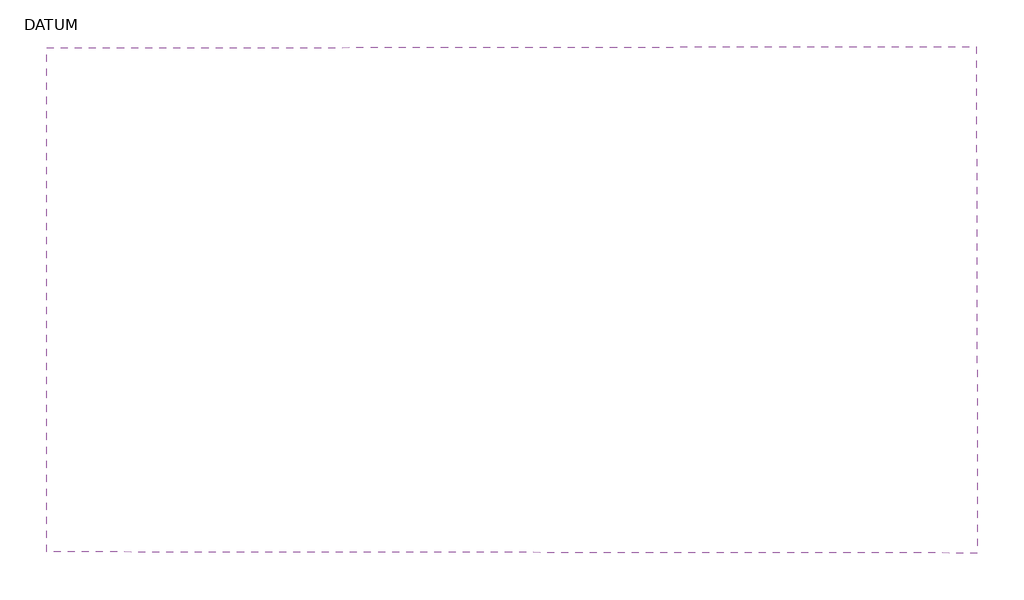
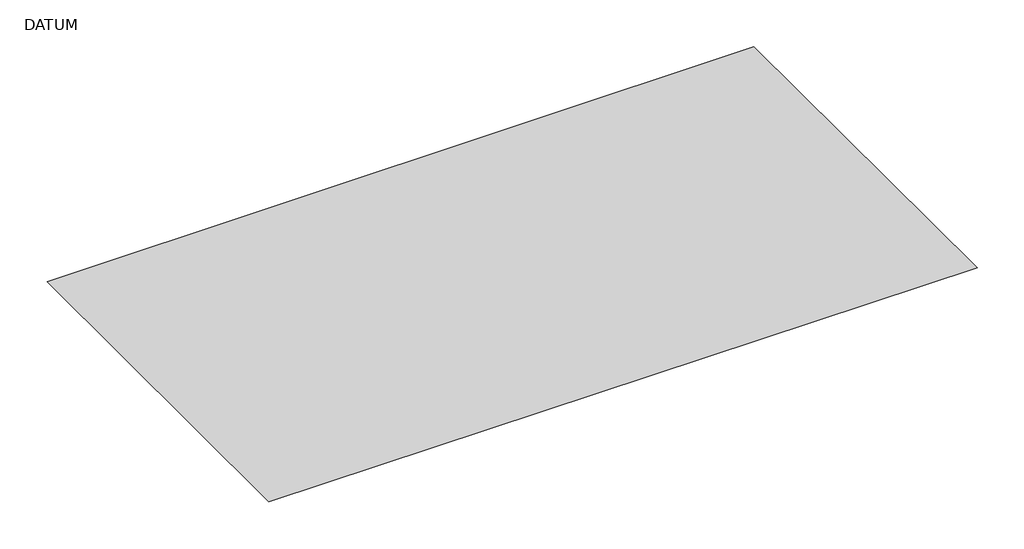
# One storey: 1 proxy.
"""IFC4 building model written with IfcOpenShell, lengths in millimetres."""

from ifc_helpers import new_model, si_unit, origin, place, context, project, spatial, triangles, element, save

model = new_model("IFC4")

# Units and contexts
model_context = context("Model", 3, world=origin())
ifc_project = project(units=[si_unit("LENGTHUNIT", "METRE", prefix="MILLI")], contexts=[model_context])

# Site, building, storey
site = spatial("IfcSite", under=ifc_project)
building = spatial("IfcBuilding", under=site)
storey = spatial("IfcBuildingStorey", under=building, Name="DATUM", Elevation=0.0)

# Proxy
placement = place(None, origin())
element("IfcBuildingElementProxy", 1, Name="Building Element Proxy", at=placement, inside=storey, context=model_context, shape_type="Tessellation", body=[
    triangles([(-13638.3489258, 22010.9564758, 99999.9984375), (46066.1742187, 22101.2370117, 99999.9984375), (46144.1462036, -10457.4058777, 99999.9984375), (-13638.3489258, -10384.8044952, 99999.9984375)], [[1, 4, 2], [3, 2, 4]], closed=False),
])

save(model, "model.ifc")
